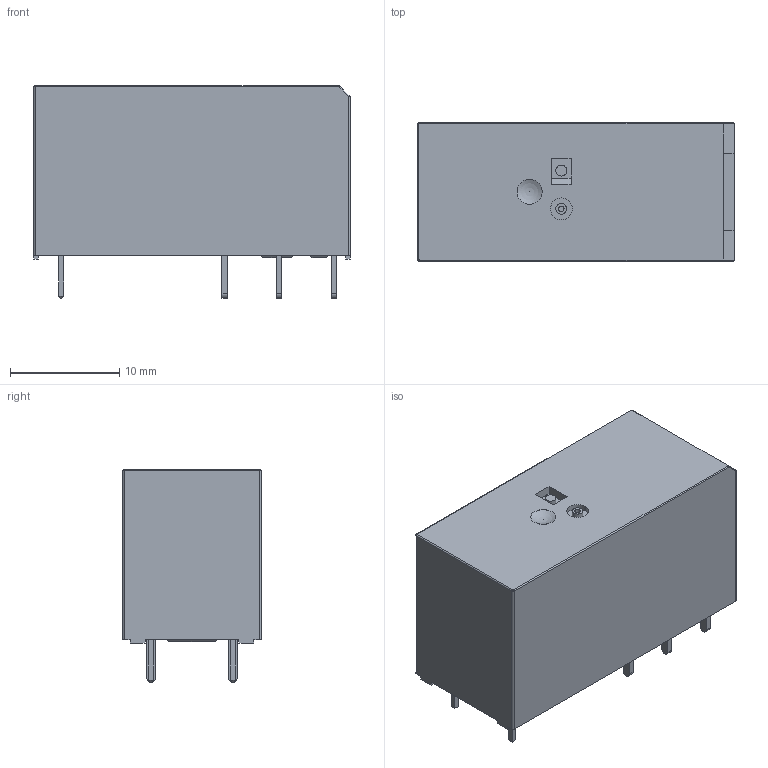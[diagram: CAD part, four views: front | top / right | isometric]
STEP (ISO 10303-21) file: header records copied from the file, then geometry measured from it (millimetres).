
FILE_DESCRIPTION (( 'STEP AP203' ), '1' );
FILE_NAME ('R2G 1CH 俋倛.STEP', '2022-12-09T01:04:05', ( '' ), ( '' ), 'SwSTEP 2.0', 'SolidWorks 2018', '' );
FILE_SCHEMA (( 'CONFIG_CONTROL_DESIGN' ));
Length unit declared in the file: millimetre
Products named in the file (1): R2G 1CH 俋倛
Bounding box: 29 x 12.7 x 19.5 mm (x, y, z)
Volume: 5724.7 mm3; surface area: 2132.4 mm2
Topology: 1 solids, 1 shells, 145 faces, 364 edges, 234 vertices
Faces by surface type: plane 111, cylinder 29, cone 2, torus 2, sphere 1
Entity records: 4335 total; most frequent: CARTESIAN_POINT 773, ORIENTED_EDGE 720, DIRECTION 700, EDGE_CURVE 360, LINE 300, VECTOR 300, VERTEX_POINT 233, AXIS2_PLACEMENT_3D 200
